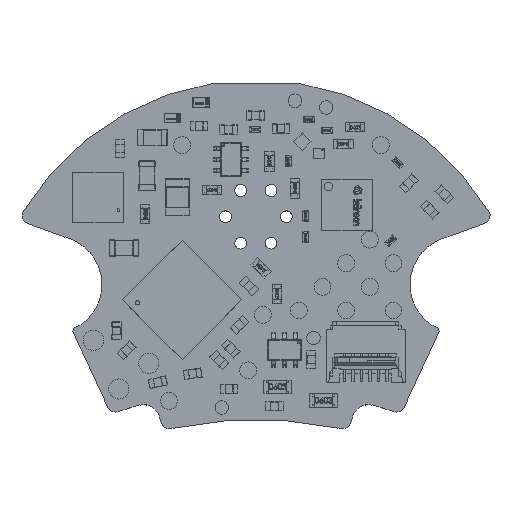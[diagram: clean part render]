
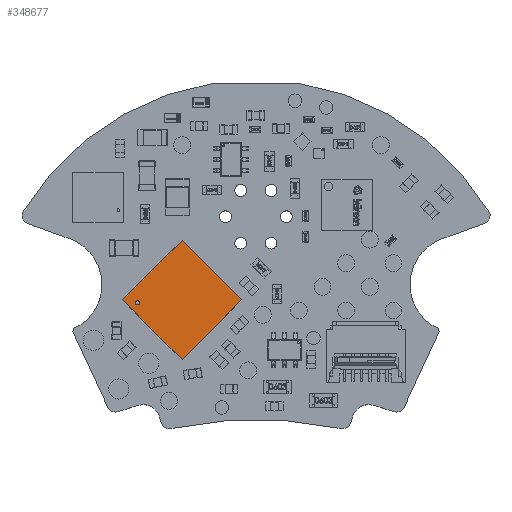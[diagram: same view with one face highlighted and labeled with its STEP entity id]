
A CAD part, top view. The second image highlights one B-rep face of the part: STEP entity #348677.
In plain terms, the highlighted planar face has unit normal (0, 0, 1).
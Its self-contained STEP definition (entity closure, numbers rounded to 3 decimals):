
#348556 = VERTEX_POINT('',#348557);
#348557 = CARTESIAN_POINT('',(-0.837,-4.917,
    0.623));
#348563 = EDGE_CURVE('',#348564,#348556,#348566,.T.);
#348564 = VERTEX_POINT('',#348565);
#348565 = CARTESIAN_POINT('',(-4.375,-8.455,
    0.623));
#348566 = LINE('',#348567,#348568);
#348567 = CARTESIAN_POINT('',(-4.375,-8.455,
    0.623));
#348568 = VECTOR('',#348569,1.);
#348569 = DIRECTION('',(0.707,0.707,0.));
#348594 = VERTEX_POINT('',#348595);
#348595 = CARTESIAN_POINT('',(-4.375,-1.379,
    0.623));
#348601 = EDGE_CURVE('',#348556,#348594,#348602,.T.);
#348602 = LINE('',#348603,#348604);
#348603 = CARTESIAN_POINT('',(-0.837,-4.917,
    0.623));
#348604 = VECTOR('',#348605,1.);
#348605 = DIRECTION('',(-0.707,0.707,0.));
#348625 = VERTEX_POINT('',#348626);
#348626 = CARTESIAN_POINT('',(-7.914,-4.917,
    0.623));
#348632 = EDGE_CURVE('',#348594,#348625,#348633,.T.);
#348633 = LINE('',#348634,#348635);
#348634 = CARTESIAN_POINT('',(-4.375,-1.379,
    0.623));
#348635 = VECTOR('',#348636,1.);
#348636 = DIRECTION('',(-0.707,-0.707,0.));
#348654 = EDGE_CURVE('',#348625,#348564,#348655,.T.);
#348655 = LINE('',#348656,#348657);
#348656 = CARTESIAN_POINT('',(-7.914,-4.917,
    0.623));
#348657 = VECTOR('',#348658,1.);
#348658 = DIRECTION('',(0.707,-0.707,0.));
#348677 = ADVANCED_FACE('',(#348678),#348684,.T.);
#348678 = FACE_BOUND('',#348679,.T.);
#348679 = EDGE_LOOP('',(#348680,#348681,#348682,#348683));
#348680 = ORIENTED_EDGE('',*,*,#348563,.T.);
#348681 = ORIENTED_EDGE('',*,*,#348601,.T.);
#348682 = ORIENTED_EDGE('',*,*,#348632,.T.);
#348683 = ORIENTED_EDGE('',*,*,#348654,.T.);
#348684 = PLANE('',#348685);
#348685 = AXIS2_PLACEMENT_3D('',#348686,#348687,#348688);
#348686 = CARTESIAN_POINT('',(-4.375,-8.455,
    0.623));
#348687 = DIRECTION('',(0.,0.,1.));
#348688 = DIRECTION('',(-0.707,0.707,0.));
